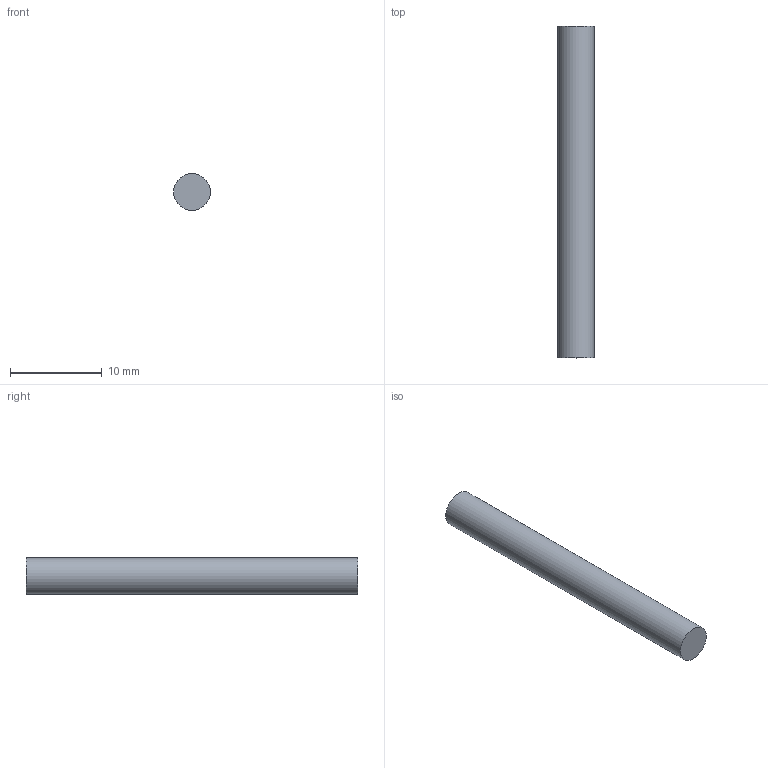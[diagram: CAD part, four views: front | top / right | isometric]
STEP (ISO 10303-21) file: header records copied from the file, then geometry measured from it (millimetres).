
FILE_DESCRIPTION(/* description */ (''),/* implementation_level */ '2;1');
FILE_NAME(/* name */ 'pin obudowa II.step',/* time_stamp */ '2026-03-04T15:17:15+01:00',/* author */ (''),/* organization */ (''),/* preprocessor_version */ 'ST-DEVELOPER v20.1',/* originating_system */ 'Autodesk Translation Framework v14.24.0.0',/* authorisation */ '');
FILE_SCHEMA (('AUTOMOTIVE_DESIGN { 1 0 10303 214 3 1 1 }'));
Length unit declared in the file: millimetre
Products named in the file (1): pin obudowa II
Bounding box: 4 x 36.2 x 4 mm (x, y, z)
Volume: 454.9 mm3; surface area: 480 mm2
Topology: 1 solids, 1 shells, 3 faces, 3 edges, 2 vertices
Faces by surface type: plane 2, cylinder 1
Full cylindrical faces by diameter (mm): 4 x1
Entity records: 92 total; most frequent: DIRECTION 13, CARTESIAN_POINT 9, ORIENTED_EDGE 6, AXIS2_PLACEMENT_3D 6, FACE_OUTER_BOUND 3, EDGE_LOOP 3, EDGE_CURVE 3, ADVANCED_FACE 3
